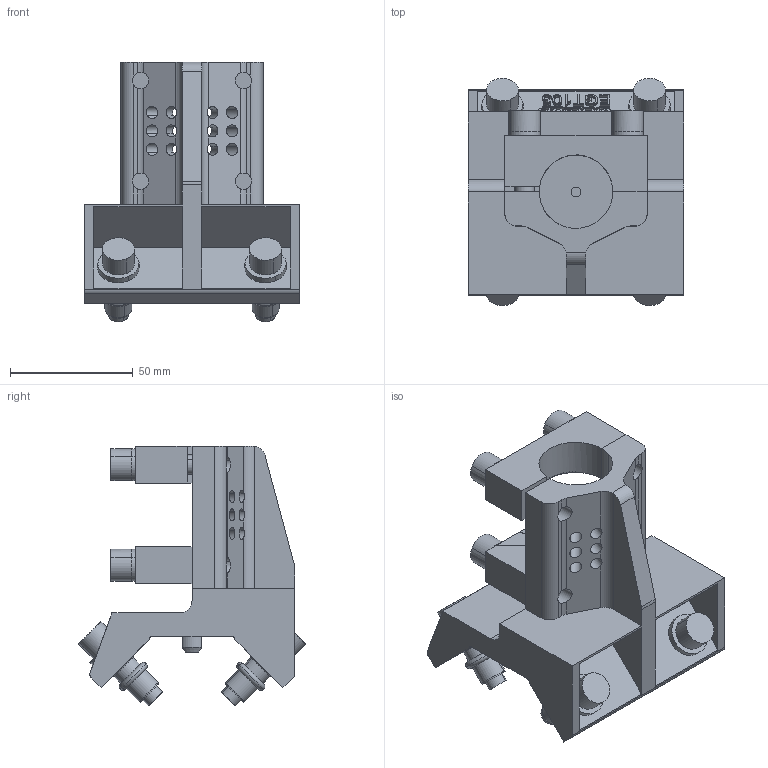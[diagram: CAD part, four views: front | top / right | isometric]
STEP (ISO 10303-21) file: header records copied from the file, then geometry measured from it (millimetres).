
FILE_DESCRIPTION(('CATIA V5 STEP Exchange'),'2;1');
FILE_NAME('C:\Users\User\Desktop\stp\EGT_103.stp','2017-07-21T01:33:25+00:00',('none'),('none'),'CATIA Version 5 Release 21 GA (IN-10)','CATIA V5 STEP AP203','none');
FILE_SCHEMA(('CONFIG_CONTROL_DESIGN'));
Length unit declared in the file: millimetre
Products named in the file (1): EGT_103
Bounding box: 88 x 92.66 x 105.85 mm (x, y, z)
Volume: 210105.2 mm3; surface area: 74110.5 mm2
Topology: 41 solids, 41 shells, 1304 faces, 3576 edges, 2370 vertices
Faces by surface type: plane 978, cylinder 184, extrusion 100, cone 26, torus 16
Entity records: 44890 total; most frequent: CARTESIAN_POINT 12697, ORIENTED_EDGE 7152, DIRECTION 5549, EDGE_CURVE 3576, VECTOR 2892, LINE 2792, VERTEX_POINT 2370, AXIS2_PLACEMENT_3D 1500
